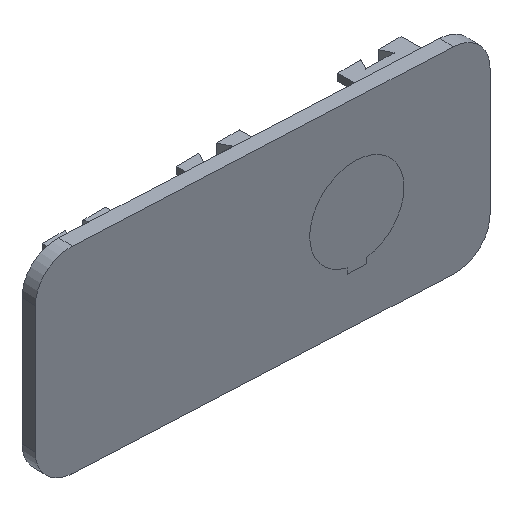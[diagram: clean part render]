
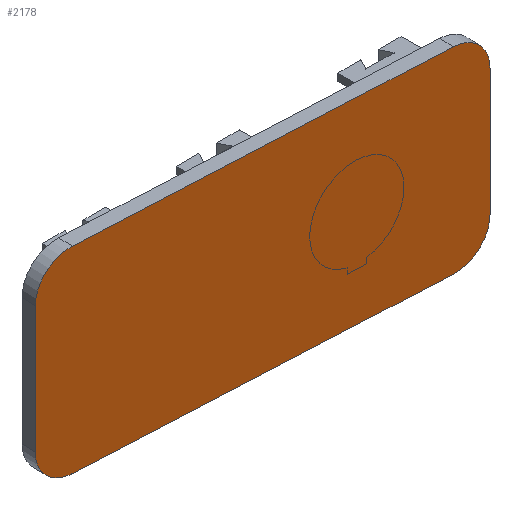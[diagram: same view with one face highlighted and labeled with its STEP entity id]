
A CAD part, isometric view. The second image highlights one B-rep face of the part: STEP entity #2178.
In plain terms, the highlighted planar face has unit normal (-0.049, -0.999, 0).
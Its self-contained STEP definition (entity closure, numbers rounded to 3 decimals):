
#29=PLANE('',#2319);
#143=FACE_OUTER_BOUND('',#264,.T.);
#264=EDGE_LOOP('',(#1635,#1636,#1637,#1638,#1639,#1640,#1641,#1642));
#380=LINE('',#3021,#684);
#434=LINE('',#3137,#738);
#435=LINE('',#3140,#739);
#438=LINE('',#3148,#742);
#684=VECTOR('',#2450,10.);
#738=VECTOR('',#2518,10.);
#739=VECTOR('',#2521,10.);
#742=VECTOR('',#2530,10.);
#985=CIRCLE('',#2306,10.);
#989=CIRCLE('',#2313,10.);
#990=CIRCLE('',#2317,10.);
#991=CIRCLE('',#2320,10.);
#1000=VERTEX_POINT('',#3011);
#1001=VERTEX_POINT('',#3013);
#1003=VERTEX_POINT('',#3019);
#1057=VERTEX_POINT('',#3131);
#1058=VERTEX_POINT('',#3135);
#1059=VERTEX_POINT('',#3139);
#1060=VERTEX_POINT('',#3143);
#1061=VERTEX_POINT('',#3147);
#1211=EDGE_CURVE('',#1000,#1001,#985,.T.);
#1215=EDGE_CURVE('',#1000,#1003,#380,.T.);
#1270=EDGE_CURVE('',#1057,#1003,#989,.T.);
#1273=EDGE_CURVE('',#1057,#1058,#434,.T.);
#1274=EDGE_CURVE('',#1059,#1001,#435,.T.);
#1276=EDGE_CURVE('',#1059,#1060,#990,.T.);
#1278=EDGE_CURVE('',#1061,#1060,#438,.T.);
#1301=EDGE_CURVE('',#1058,#1061,#991,.T.);
#1635=ORIENTED_EDGE('',*,*,#1211,.F.);
#1636=ORIENTED_EDGE('',*,*,#1215,.T.);
#1637=ORIENTED_EDGE('',*,*,#1270,.F.);
#1638=ORIENTED_EDGE('',*,*,#1273,.T.);
#1639=ORIENTED_EDGE('',*,*,#1301,.T.);
#1640=ORIENTED_EDGE('',*,*,#1278,.T.);
#1641=ORIENTED_EDGE('',*,*,#1276,.F.);
#1642=ORIENTED_EDGE('',*,*,#1274,.T.);
#2178=ADVANCED_FACE('',(#143),#29,.F.);
#2306=AXIS2_PLACEMENT_3D('',#3014,#2443,#2444);
#2313=AXIS2_PLACEMENT_3D('',#3132,#2512,#2513);
#2317=AXIS2_PLACEMENT_3D('',#3144,#2525,#2526);
#2319=AXIS2_PLACEMENT_3D('',#3189,#2553,#2554);
#2320=AXIS2_PLACEMENT_3D('',#3190,#2555,#2556);
#2443=DIRECTION('center_axis',(0.049,0.999,0.));
#2444=DIRECTION('ref_axis',(0.706,-0.035,0.707));
#2450=DIRECTION('',(-0.999,0.049,0.));
#2512=DIRECTION('center_axis',(0.049,0.999,0.));
#2513=DIRECTION('ref_axis',(-0.706,0.035,0.707));
#2518=DIRECTION('',(0.,0.,-1.));
#2521=DIRECTION('',(0.,0.,1.));
#2525=DIRECTION('center_axis',(0.049,0.999,0.));
#2526=DIRECTION('ref_axis',(0.706,-0.035,-0.707));
#2530=DIRECTION('',(0.999,-0.049,0.));
#2553=DIRECTION('center_axis',(0.049,0.999,0.));
#2554=DIRECTION('ref_axis',(0.,0.,1.));
#2555=DIRECTION('center_axis',(-0.049,-0.999,0.));
#2556=DIRECTION('ref_axis',(-0.706,0.035,-0.707));
#3011=CARTESIAN_POINT('',(50.556,-13.256,28.25));
#3013=CARTESIAN_POINT('',(60.544,-13.745,18.25));
#3014=CARTESIAN_POINT('Origin',(50.556,-13.256,18.25));
#3019=CARTESIAN_POINT('',(-52.721,-8.205,28.25));
#3021=CARTESIAN_POINT('',(60.344,-13.735,28.25));
#3131=CARTESIAN_POINT('',(-62.709,-7.717,18.25));
#3132=CARTESIAN_POINT('Origin',(-52.721,-8.205,18.25));
#3135=CARTESIAN_POINT('',(-62.709,-7.717,-17.75));
#3137=CARTESIAN_POINT('',(-62.709,-7.717,28.75));
#3139=CARTESIAN_POINT('',(60.544,-13.745,-17.75));
#3140=CARTESIAN_POINT('',(60.544,-13.745,-27.75));
#3143=CARTESIAN_POINT('',(50.556,-13.256,-27.75));
#3144=CARTESIAN_POINT('Origin',(50.556,-13.256,-17.75));
#3147=CARTESIAN_POINT('',(-52.721,-8.205,-27.75));
#3148=CARTESIAN_POINT('',(-63.508,-7.678,-27.75));
#3189=CARTESIAN_POINT('Origin',(-0.583,-10.755,0.));
#3190=CARTESIAN_POINT('Origin',(-52.721,-8.205,-17.75));
